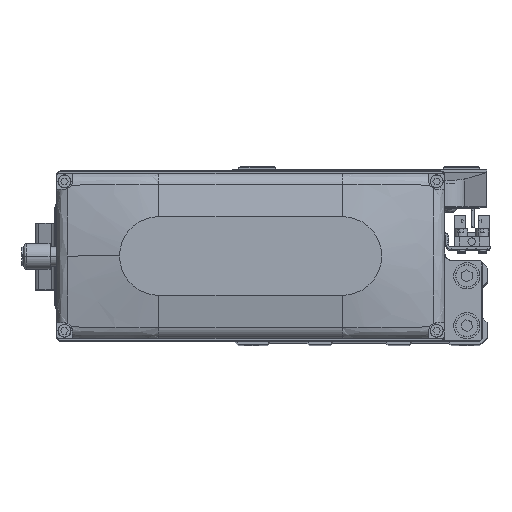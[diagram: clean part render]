
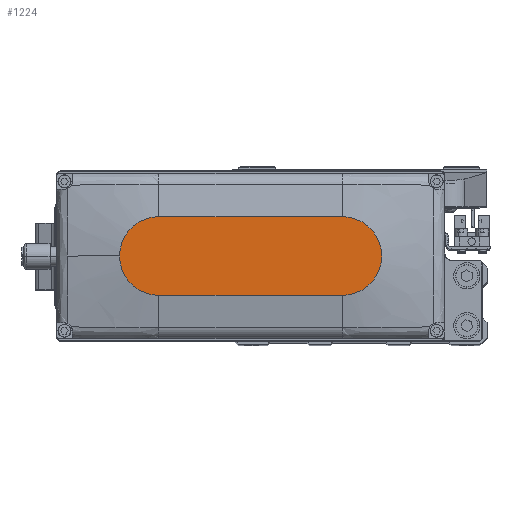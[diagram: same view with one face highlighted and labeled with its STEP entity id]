
A CAD part, top view. The second image highlights one B-rep face of the part: STEP entity #1224.
In plain terms, the highlighted planar face has unit normal (0, 0, 1).
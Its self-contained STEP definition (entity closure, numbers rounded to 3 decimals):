
#277 = EDGE_LOOP ( 'NONE', ( #8362, #42123, #24593, #12153, #9556 ) ) ;
#419 = AXIS2_PLACEMENT_3D ( 'NONE', #29647, #43320, #12629 ) ;
#842 = DIRECTION ( 'NONE',  ( 1., 0., 0. ) ) ;
#1224 = ADVANCED_FACE ( 'NONE', ( #34850 ), #4195, .T. ) ;
#1403 = AXIS2_PLACEMENT_3D ( 'NONE', #17830, #31504, #842 ) ;
#1953 = AXIS2_PLACEMENT_3D ( 'NONE', #25840, #39508, #8848 ) ;
#2416 = VERTEX_POINT ( 'NONE', #30644 ) ;
#4195 = PLANE ( 'NONE',  #1403 ) ;
#4876 = AXIS2_PLACEMENT_3D ( 'NONE', #13491, #27148, #40816 ) ;
#6604 = VERTEX_POINT ( 'NONE', #37381 ) ;
#8362 = ORIENTED_EDGE ( 'NONE', *, *, #9217, .T. ) ;
#8848 = DIRECTION ( 'NONE',  ( 1., 0., 0. ) ) ;
#9217 = EDGE_CURVE ( 'NONE', #18750, #30791, #12155, .T. ) ;
#9556 = ORIENTED_EDGE ( 'NONE', *, *, #22805, .T. ) ;
#10920 = CARTESIAN_POINT ( 'NONE',  ( -35., -15., 35. ) ) ;
#12153 = ORIENTED_EDGE ( 'NONE', *, *, #22738, .T. ) ;
#12155 = LINE ( 'NONE', #25798, #31837 ) ;
#12629 = DIRECTION ( 'NONE',  ( 1., 0., 0. ) ) ;
#13491 = CARTESIAN_POINT ( 'NONE',  ( -35., 0., 35. ) ) ;
#17830 = CARTESIAN_POINT ( 'NONE',  ( 0., 0., 35. ) ) ;
#18750 = VERTEX_POINT ( 'NONE', #42704 ) ;
#19689 = CIRCLE ( 'NONE', #419, 15. ) ;
#21228 = CIRCLE ( 'NONE', #1953, 15. ) ;
#22738 = EDGE_CURVE ( 'NONE', #6604, #36932, #21228, .T. ) ;
#22805 = EDGE_CURVE ( 'NONE', #36932, #18750, #19689, .T. ) ;
#23781 = CARTESIAN_POINT ( 'NONE',  ( 50., 0., 35. ) ) ;
#24197 = CIRCLE ( 'NONE', #4876, 15. ) ;
#24324 = CARTESIAN_POINT ( 'NONE',  ( -35., 15., 35. ) ) ;
#24564 = DIRECTION ( 'NONE',  ( 1., 0., 0. ) ) ;
#24593 = ORIENTED_EDGE ( 'NONE', *, *, #27518, .T. ) ;
#25260 = EDGE_CURVE ( 'NONE', #30791, #2416, #24197, .T. ) ;
#25798 = CARTESIAN_POINT ( 'NONE',  ( -35., 15., 35. ) ) ;
#25840 = CARTESIAN_POINT ( 'NONE',  ( 35., 0., 35. ) ) ;
#27148 = DIRECTION ( 'NONE',  ( 0., 0., 1. ) ) ;
#27518 = EDGE_CURVE ( 'NONE', #2416, #6604, #41588, .T. ) ;
#29647 = CARTESIAN_POINT ( 'NONE',  ( 35., 0., 35. ) ) ;
#30644 = CARTESIAN_POINT ( 'NONE',  ( -35., -15., 35. ) ) ;
#30791 = VERTEX_POINT ( 'NONE', #24324 ) ;
#31504 = DIRECTION ( 'NONE',  ( 0., 0., 1. ) ) ;
#31837 = VECTOR ( 'NONE', #39465, 1000. ) ;
#34850 = FACE_OUTER_BOUND ( 'NONE', #277, .T. ) ;
#36932 = VERTEX_POINT ( 'NONE', #23781 ) ;
#37381 = CARTESIAN_POINT ( 'NONE',  ( 35., -15., 35. ) ) ;
#37717 = VECTOR ( 'NONE', #24564, 1000. ) ;
#39465 = DIRECTION ( 'NONE',  ( -1., 0., 0. ) ) ;
#39508 = DIRECTION ( 'NONE',  ( 0., 0., 1. ) ) ;
#40816 = DIRECTION ( 'NONE',  ( 1., 0., 0. ) ) ;
#41588 = LINE ( 'NONE', #10920, #37717 ) ;
#42123 = ORIENTED_EDGE ( 'NONE', *, *, #25260, .T. ) ;
#42704 = CARTESIAN_POINT ( 'NONE',  ( 35., 15., 35. ) ) ;
#43320 = DIRECTION ( 'NONE',  ( 0., 0., 1. ) ) ;
